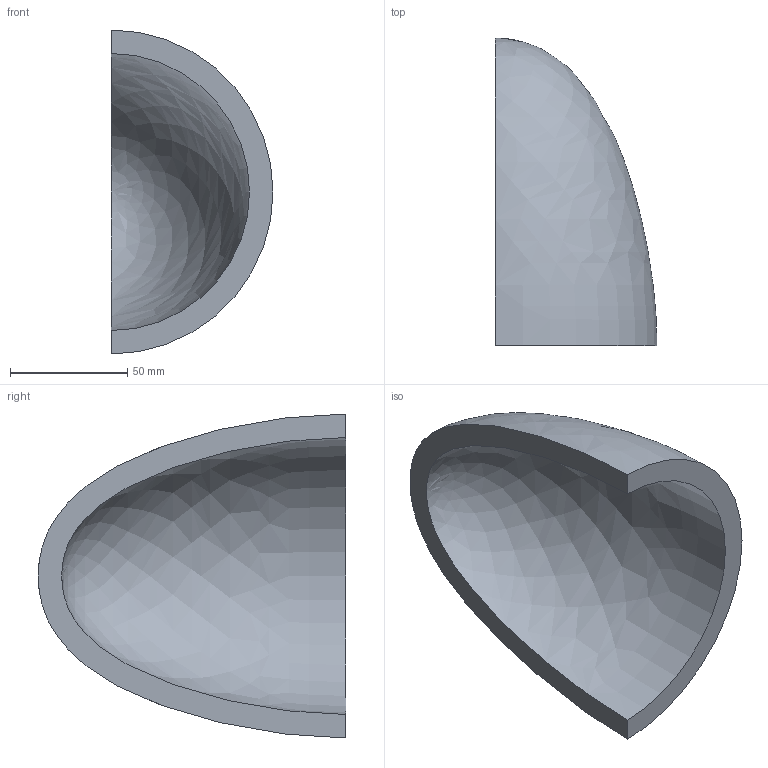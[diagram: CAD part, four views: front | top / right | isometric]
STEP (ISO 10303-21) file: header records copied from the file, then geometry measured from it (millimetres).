
FILE_DESCRIPTION(('CATIA V5 STEP Exchange'),'2;1');
FILE_NAME('C:\_Andres\UNIVERSIDAD\IQS\ASIGNATURAS\DAO\EXF\EXF-16172c\2inicio\Sanz_Alvarez_Ej10_v31.stp','2017-03-05T22:31:15+00:00',('none'),('none'),'CATIA Version 5-6 Release 2014 SP1 HF18','CATIA V5 STEP AP203','none');
FILE_SCHEMA(('CONFIG_CONTROL_DESIGN'));
Length unit declared in the file: millimetre
Products named in the file (1): Sanz_Alvarez_Ej10_v31
Bounding box: 69 x 131 x 138 mm (x, y, z)
Volume: 217197.3 mm3; surface area: 48628.3 mm2
Topology: 1 solids, 1 shells, 4 faces, 10 edges, 6 vertices
Faces by surface type: revolution 2, plane 2
Entity records: 254 total; most frequent: CARTESIAN_POINT 132, ORIENTED_EDGE 16, DIRECTION 10, EDGE_CURVE 8, B_SPLINE_CURVE_WITH_KNOTS 6, VERTEX_POINT 6, AXIS2_PLACEMENT_3D 5, ADVANCED_FACE 4
